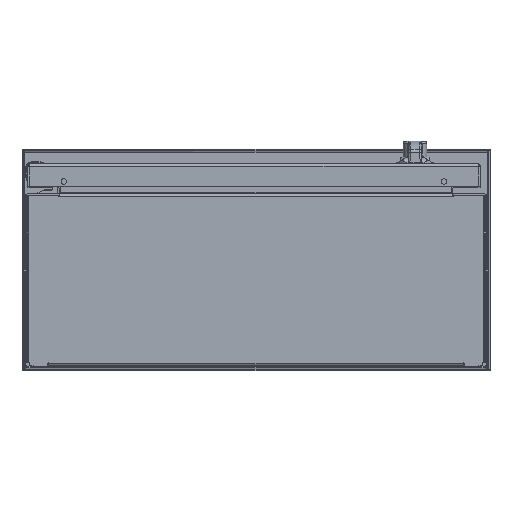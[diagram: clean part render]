
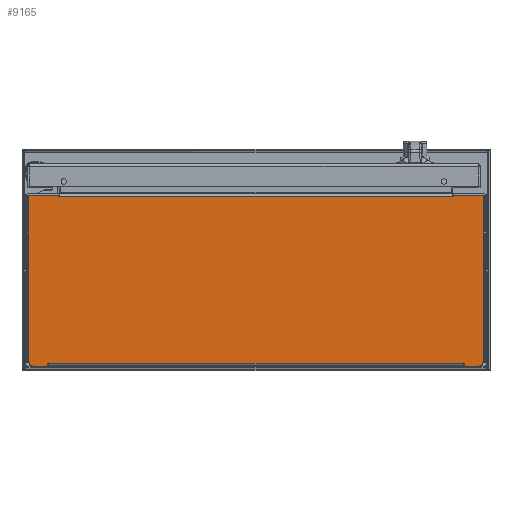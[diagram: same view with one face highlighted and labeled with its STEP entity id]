
A CAD part, top view. The second image highlights one B-rep face of the part: STEP entity #9165.
In plain terms, the highlighted planar face has unit normal (0, 0, 1).
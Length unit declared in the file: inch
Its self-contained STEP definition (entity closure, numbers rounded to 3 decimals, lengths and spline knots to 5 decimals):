
#6608=CARTESIAN_POINT('',(7.792,0.083,0.));
#6609=DIRECTION('',(0.,0.,1.));
#6610=DIRECTION('',(0.,-1.,0.));
#6611=AXIS2_PLACEMENT_3D('',#6608,#6609,#6610);
#6616=DIRECTION('',(1.,0.,0.));
#6617=VECTOR('',#6616,0.095);
#6618=CARTESIAN_POINT('',(7.697,0.068,0.));
#6619=LINE('',#6618,#6617);
#6623=DIRECTION('',(0.,1.,0.));
#6624=VECTOR('',#6623,0.014);
#6625=CARTESIAN_POINT('',(7.682,0.039,0.));
#6626=LINE('',#6625,#6624);
#6630=CARTESIAN_POINT('',(7.667,0.039,0.));
#6631=DIRECTION('',(0.,0.,1.));
#6632=DIRECTION('',(0.,-1.,0.));
#6633=AXIS2_PLACEMENT_3D('',#6630,#6631,#6632);
#6638=DIRECTION('',(1.,0.,0.));
#6639=VECTOR('',#6638,0.47);
#6640=CARTESIAN_POINT('',(7.197,0.024,0.));
#6641=LINE('',#6640,#6639);
#6645=CARTESIAN_POINT('',(7.197,0.039,0.));
#6646=DIRECTION('',(0.,0.,1.));
#6647=DIRECTION('',(-1.,0.,0.));
#6648=AXIS2_PLACEMENT_3D('',#6645,#6646,#6647);
#6653=CARTESIAN_POINT('',(7.1665,0.1628,0.));
#6654=DIRECTION('',(0.,0.,1.));
#6655=DIRECTION('',(1.,0.,0.));
#6656=AXIS2_PLACEMENT_3D('',#6653,#6654,#6655);
#6661=CARTESIAN_POINT('',(-7.1665,0.1628,0.));
#6662=DIRECTION('',(0.,0.,-1.));
#6663=DIRECTION('',(-1.,0.,0.));
#6664=AXIS2_PLACEMENT_3D('',#6661,#6662,#6663);
#6669=CARTESIAN_POINT('',(-7.197,0.039,0.));
#6670=DIRECTION('',(0.,0.,1.));
#6671=DIRECTION('',(0.,-1.,0.));
#6672=AXIS2_PLACEMENT_3D('',#6669,#6670,#6671);
#6677=DIRECTION('',(1.,0.,0.));
#6678=VECTOR('',#6677,0.47);
#6679=CARTESIAN_POINT('',(-7.667,0.024,0.));
#6680=LINE('',#6679,#6678);
#6684=CARTESIAN_POINT('',(-7.667,0.039,0.));
#6685=DIRECTION('',(0.,0.,1.));
#6686=DIRECTION('',(-1.,0.,0.));
#6687=AXIS2_PLACEMENT_3D('',#6684,#6685,#6686);
#6692=DIRECTION('',(0.,-1.,0.));
#6693=VECTOR('',#6692,0.014);
#6694=CARTESIAN_POINT('',(-7.682,0.053,0.));
#6695=LINE('',#6694,#6693);
#6699=DIRECTION('',(1.,0.,0.));
#6700=VECTOR('',#6699,0.095);
#6701=CARTESIAN_POINT('',(-7.792,0.068,0.));
#6702=LINE('',#6701,#6700);
#6706=CARTESIAN_POINT('',(-7.792,0.083,0.));
#6707=DIRECTION('',(0.,0.,1.));
#6708=DIRECTION('',(-1.,0.,0.));
#6709=AXIS2_PLACEMENT_3D('',#6706,#6707,#6708);
#6714=DIRECTION('',(0.,-1.,0.));
#6715=VECTOR('',#6714,0.11);
#6716=CARTESIAN_POINT('',(-7.807,0.193,0.));
#6717=LINE('',#6716,#6715);
#6721=DIRECTION('',(1.,0.,0.));
#6722=VECTOR('',#6721,0.0302);
#6723=CARTESIAN_POINT('',(-7.8372,0.193,0.));
#6724=LINE('',#6723,#6722);
#6728=DIRECTION('',(-1.,0.,0.));
#6729=VECTOR('',#6728,1.02147);
#6730=CARTESIAN_POINT('',(-6.81573,5.932,0.));
#6731=LINE('',#6730,#6729);
#6735=DIRECTION('',(0.174,-0.985,0.));
#6736=VECTOR('',#6735,0.02721);
#6737=CARTESIAN_POINT('',(-6.81573,5.932,0.));
#6738=LINE('',#6737,#6736);
#6742=DIRECTION('',(-1.,0.,0.));
#6743=VECTOR('',#6742,0.015);
#6744=CARTESIAN_POINT('',(-6.796,5.9052,0.));
#6745=LINE('',#6744,#6743);
#6749=DIRECTION('',(1.,0.,0.));
#6750=VECTOR('',#6749,0.015);
#6751=CARTESIAN_POINT('',(6.796,5.9052,0.));
#6752=LINE('',#6751,#6750);
#6756=DIRECTION('',(-0.174,-0.985,0.));
#6757=VECTOR('',#6756,0.02721);
#6758=CARTESIAN_POINT('',(6.81573,5.932,0.));
#6759=LINE('',#6758,#6757);
#6763=DIRECTION('',(-1.,0.,0.));
#6764=VECTOR('',#6763,1.02147);
#6765=CARTESIAN_POINT('',(7.8372,5.932,0.));
#6766=LINE('',#6765,#6764);
#6770=DIRECTION('',(1.,0.,0.));
#6771=VECTOR('',#6770,0.0302);
#6772=CARTESIAN_POINT('',(7.807,0.193,0.));
#6773=LINE('',#6772,#6771);
#6777=DIRECTION('',(0.,1.,0.));
#6778=VECTOR('',#6777,0.11);
#6779=CARTESIAN_POINT('',(7.807,0.083,0.));
#6780=LINE('',#6779,#6778);
#6827=DIRECTION('',(0.,-1.,0.));
#6828=VECTOR('',#6827,5.739);
#6829=CARTESIAN_POINT('',(7.8372,5.932,0.));
#6830=LINE('',#6829,#6828);
#6975=DIRECTION('',(1.,0.,0.));
#6976=VECTOR('',#6975,13.592);
#6977=CARTESIAN_POINT('',(-6.796,5.9052,0.));
#6978=LINE('',#6977,#6976);
#7026=DIRECTION('',(0.,1.,0.));
#7027=VECTOR('',#7026,5.739);
#7028=CARTESIAN_POINT('',(-7.8372,0.193,0.));
#7029=LINE('',#7028,#7027);
#7141=CARTESIAN_POINT('',(-7.697,0.053,0.));
#7142=DIRECTION('',(0.,0.,-1.));
#7143=DIRECTION('',(0.,1.,0.));
#7144=AXIS2_PLACEMENT_3D('',#7141,#7142,#7143);
#7192=DIRECTION('',(0.,1.,0.));
#7193=VECTOR('',#7192,0.1238);
#7194=CARTESIAN_POINT('',(-7.182,0.039,0.));
#7195=LINE('',#7194,#7193);
#7266=DIRECTION('',(-1.,0.,0.));
#7267=VECTOR('',#7266,14.302);
#7268=CARTESIAN_POINT('',(7.151,0.1628,0.));
#7269=LINE('',#7268,#7267);
#7301=DIRECTION('',(0.,-1.,0.));
#7302=VECTOR('',#7301,0.1238);
#7303=CARTESIAN_POINT('',(7.182,0.1628,0.));
#7304=LINE('',#7303,#7302);
#7336=CARTESIAN_POINT('',(7.697,0.053,0.));
#7337=DIRECTION('',(0.,0.,-1.));
#7338=DIRECTION('',(-1.,0.,0.));
#7339=AXIS2_PLACEMENT_3D('',#7336,#7337,#7338);
#8734=CARTESIAN_POINT('',(-7.807,0.193,0.));
#8736=VERTEX_POINT('',#8734);
#8738=CARTESIAN_POINT('',(7.807,0.193,0.));
#8740=VERTEX_POINT('',#8738);
#8746=CARTESIAN_POINT('',(-7.8372,5.932,0.));
#8747=VERTEX_POINT('',#8746);
#8748=CARTESIAN_POINT('',(-7.8372,0.193,0.));
#8749=VERTEX_POINT('',#8748);
#8762=CARTESIAN_POINT('',(7.8372,0.193,0.));
#8763=VERTEX_POINT('',#8762);
#8764=CARTESIAN_POINT('',(7.8372,5.932,0.));
#8765=VERTEX_POINT('',#8764);
#8790=CARTESIAN_POINT('',(-7.182,0.1628,0.));
#8791=CARTESIAN_POINT('',(-7.151,0.1628,0.));
#8792=VERTEX_POINT('',#8790);
#8793=VERTEX_POINT('',#8791);
#8798=CARTESIAN_POINT('',(7.151,0.1628,0.));
#8799=VERTEX_POINT('',#8798);
#8802=CARTESIAN_POINT('',(7.182,0.1628,0.));
#8803=VERTEX_POINT('',#8802);
#8806=CARTESIAN_POINT('',(7.682,0.053,0.));
#8808=VERTEX_POINT('',#8806);
#8810=CARTESIAN_POINT('',(7.697,0.068,0.));
#8812=VERTEX_POINT('',#8810);
#8814=CARTESIAN_POINT('',(-7.697,0.068,0.));
#8816=VERTEX_POINT('',#8814);
#8818=CARTESIAN_POINT('',(-7.682,0.053,0.));
#8820=VERTEX_POINT('',#8818);
#8822=CARTESIAN_POINT('',(7.792,0.068,0.));
#8823=CARTESIAN_POINT('',(7.807,0.083,0.));
#8824=VERTEX_POINT('',#8822);
#8825=VERTEX_POINT('',#8823);
#8862=CARTESIAN_POINT('',(-7.807,0.083,0.));
#8863=CARTESIAN_POINT('',(-7.792,0.068,0.));
#8864=VERTEX_POINT('',#8862);
#8865=VERTEX_POINT('',#8863);
#8926=CARTESIAN_POINT('',(6.796,5.9052,0.));
#8927=CARTESIAN_POINT('',(6.811,5.9052,0.));
#8928=VERTEX_POINT('',#8926);
#8929=VERTEX_POINT('',#8927);
#8930=CARTESIAN_POINT('',(6.81573,5.932,0.));
#8931=VERTEX_POINT('',#8930);
#8938=CARTESIAN_POINT('',(-6.796,5.9052,0.));
#8939=CARTESIAN_POINT('',(-6.811,5.9052,0.));
#8940=VERTEX_POINT('',#8938);
#8941=VERTEX_POINT('',#8939);
#8942=CARTESIAN_POINT('',(-6.81573,5.932,0.));
#8943=VERTEX_POINT('',#8942);
#9062=CARTESIAN_POINT('',(7.667,0.024,0.));
#9063=CARTESIAN_POINT('',(7.682,0.039,0.));
#9064=VERTEX_POINT('',#9062);
#9065=VERTEX_POINT('',#9063);
#9070=CARTESIAN_POINT('',(7.182,0.039,0.));
#9071=CARTESIAN_POINT('',(7.197,0.024,0.));
#9072=VERTEX_POINT('',#9070);
#9073=VERTEX_POINT('',#9071);
#9078=CARTESIAN_POINT('',(-7.682,0.039,0.));
#9079=CARTESIAN_POINT('',(-7.667,0.024,0.));
#9080=VERTEX_POINT('',#9078);
#9081=VERTEX_POINT('',#9079);
#9086=CARTESIAN_POINT('',(-7.197,0.024,0.));
#9087=CARTESIAN_POINT('',(-7.182,0.039,0.));
#9088=VERTEX_POINT('',#9086);
#9089=VERTEX_POINT('',#9087);
#9094=CARTESIAN_POINT('',(0.,0.,0.));
#9095=DIRECTION('',(0.,0.,1.));
#9096=DIRECTION('',(1.,0.,0.));
#9097=AXIS2_PLACEMENT_3D('',#9094,#9095,#9096);
#9098=PLANE('',#9097);
#9100=ORIENTED_EDGE('',*,*,#9099,.F.);
#9102=ORIENTED_EDGE('',*,*,#9101,.F.);
#9104=ORIENTED_EDGE('',*,*,#9103,.F.);
#9106=ORIENTED_EDGE('',*,*,#9105,.F.);
#9108=ORIENTED_EDGE('',*,*,#9107,.F.);
#9110=ORIENTED_EDGE('',*,*,#9109,.F.);
#9112=ORIENTED_EDGE('',*,*,#9111,.F.);
#9114=ORIENTED_EDGE('',*,*,#9113,.F.);
#9116=ORIENTED_EDGE('',*,*,#9115,.T.);
#9118=ORIENTED_EDGE('',*,*,#9117,.T.);
#9120=ORIENTED_EDGE('',*,*,#9119,.F.);
#9122=ORIENTED_EDGE('',*,*,#9121,.F.);
#9124=ORIENTED_EDGE('',*,*,#9123,.F.);
#9126=ORIENTED_EDGE('',*,*,#9125,.F.);
#9128=ORIENTED_EDGE('',*,*,#9127,.F.);
#9130=ORIENTED_EDGE('',*,*,#9129,.F.);
#9132=ORIENTED_EDGE('',*,*,#9131,.F.);
#9134=ORIENTED_EDGE('',*,*,#9133,.F.);
#9136=ORIENTED_EDGE('',*,*,#9135,.F.);
#9138=ORIENTED_EDGE('',*,*,#9137,.F.);
#9140=ORIENTED_EDGE('',*,*,#9139,.F.);
#9142=ORIENTED_EDGE('',*,*,#9141,.T.);
#9144=ORIENTED_EDGE('',*,*,#9143,.F.);
#9146=ORIENTED_EDGE('',*,*,#9145,.T.);
#9148=ORIENTED_EDGE('',*,*,#9147,.F.);
#9150=ORIENTED_EDGE('',*,*,#9149,.T.);
#9152=ORIENTED_EDGE('',*,*,#9151,.T.);
#9154=ORIENTED_EDGE('',*,*,#9153,.F.);
#9156=ORIENTED_EDGE('',*,*,#9155,.F.);
#9158=ORIENTED_EDGE('',*,*,#9157,.T.);
#9160=ORIENTED_EDGE('',*,*,#9159,.F.);
#9162=ORIENTED_EDGE('',*,*,#9161,.F.);
#9163=EDGE_LOOP('',(#9100,#9102,#9104,#9106,#9108,#9110,#9112,#9114,#9116,#9118,
#9120,#9122,#9124,#9126,#9128,#9130,#9132,#9134,#9136,#9138,#9140,#9142,#9144,
#9146,#9148,#9150,#9152,#9154,#9156,#9158,#9160,#9162));
#9164=FACE_OUTER_BOUND('',#9163,.F.);
#6612=CIRCLE('',#6611,0.015);
#6634=CIRCLE('',#6633,0.015);
#6649=CIRCLE('',#6648,0.015);
#6657=CIRCLE('',#6656,0.0155);
#6665=CIRCLE('',#6664,0.0155);
#6673=CIRCLE('',#6672,0.015);
#6688=CIRCLE('',#6687,0.015);
#6710=CIRCLE('',#6709,0.015);
#7145=CIRCLE('',#7144,0.015);
#7340=CIRCLE('',#7339,0.015);
#9099=EDGE_CURVE('',#8824,#8825,#6612,.T.);
#9101=EDGE_CURVE('',#8812,#8824,#6619,.T.);
#9103=EDGE_CURVE('',#8808,#8812,#7340,.T.);
#9105=EDGE_CURVE('',#9065,#8808,#6626,.T.);
#9107=EDGE_CURVE('',#9064,#9065,#6634,.T.);
#9109=EDGE_CURVE('',#9073,#9064,#6641,.T.);
#9111=EDGE_CURVE('',#9072,#9073,#6649,.T.);
#9113=EDGE_CURVE('',#8803,#9072,#7304,.T.);
#9115=EDGE_CURVE('',#8803,#8799,#6657,.T.);
#9117=EDGE_CURVE('',#8799,#8793,#7269,.T.);
#9119=EDGE_CURVE('',#8792,#8793,#6665,.T.);
#9121=EDGE_CURVE('',#9089,#8792,#7195,.T.);
#9123=EDGE_CURVE('',#9088,#9089,#6673,.T.);
#9125=EDGE_CURVE('',#9081,#9088,#6680,.T.);
#9127=EDGE_CURVE('',#9080,#9081,#6688,.T.);
#9129=EDGE_CURVE('',#8820,#9080,#6695,.T.);
#9131=EDGE_CURVE('',#8816,#8820,#7145,.T.);
#9133=EDGE_CURVE('',#8865,#8816,#6702,.T.);
#9135=EDGE_CURVE('',#8864,#8865,#6710,.T.);
#9137=EDGE_CURVE('',#8736,#8864,#6717,.T.);
#9139=EDGE_CURVE('',#8749,#8736,#6724,.T.);
#9141=EDGE_CURVE('',#8749,#8747,#7029,.T.);
#9143=EDGE_CURVE('',#8943,#8747,#6731,.T.);
#9145=EDGE_CURVE('',#8943,#8941,#6738,.T.);
#9147=EDGE_CURVE('',#8940,#8941,#6745,.T.);
#9149=EDGE_CURVE('',#8940,#8928,#6978,.T.);
#9151=EDGE_CURVE('',#8928,#8929,#6752,.T.);
#9153=EDGE_CURVE('',#8931,#8929,#6759,.T.);
#9155=EDGE_CURVE('',#8765,#8931,#6766,.T.);
#9157=EDGE_CURVE('',#8765,#8763,#6830,.T.);
#9159=EDGE_CURVE('',#8740,#8763,#6773,.T.);
#9161=EDGE_CURVE('',#8825,#8740,#6780,.T.);
#9165=ADVANCED_FACE('',(#9164),#9098,.T.);
